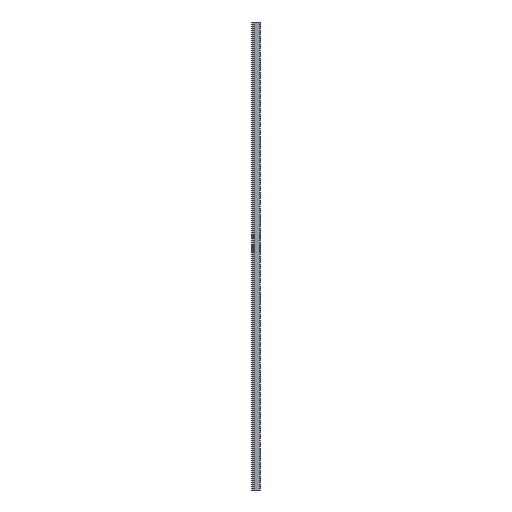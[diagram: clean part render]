
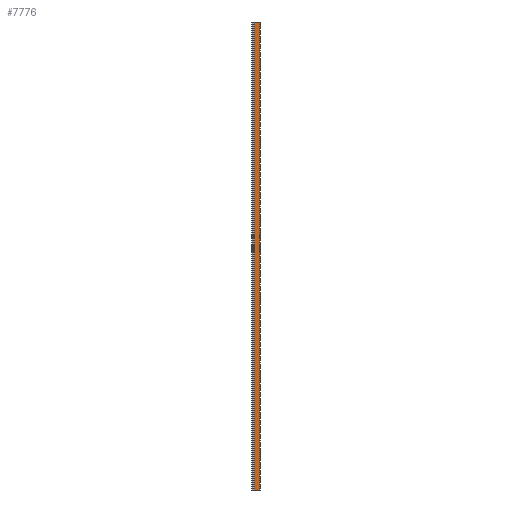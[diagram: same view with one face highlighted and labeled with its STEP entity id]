
A CAD part, left-side view. The second image highlights one B-rep face of the part: STEP entity #7776.
In plain terms, the highlighted planar face has unit normal (-1, 0, 0).
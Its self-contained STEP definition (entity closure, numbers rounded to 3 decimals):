
#402 = LINE ( 'NONE', #15246, #3662 ) ;
#412 = VERTEX_POINT ( 'NONE', #2112 ) ;
#534 = ORIENTED_EDGE ( 'NONE', *, *, #13549, .F. ) ;
#650 = DIRECTION ( 'NONE',  ( 0., -1., 0. ) ) ;
#1151 = ORIENTED_EDGE ( 'NONE', *, *, #1314, .T. ) ;
#1314 = EDGE_CURVE ( 'NONE', #16100, #2200, #6612, .T. ) ;
#1558 = DIRECTION ( 'NONE',  ( 0., 0., -1. ) ) ;
#2112 = CARTESIAN_POINT ( 'NONE',  ( 0., 4.497, -1500. ) ) ;
#2200 = VERTEX_POINT ( 'NONE', #6346 ) ;
#2550 = EDGE_CURVE ( 'NONE', #11726, #412, #402, .T. ) ;
#3055 = DIRECTION ( 'NONE',  ( 0., 1., 0. ) ) ;
#3662 = VECTOR ( 'NONE', #9825, 1000. ) ;
#4276 = LINE ( 'NONE', #8030, #12717 ) ;
#5238 = CARTESIAN_POINT ( 'NONE',  ( 0., 36.58, 1500. ) ) ;
#5558 = CARTESIAN_POINT ( 'NONE',  ( 0., 36.58, 1500. ) ) ;
#5577 = DIRECTION ( 'NONE',  ( 0., 1., 0. ) ) ;
#5913 = LINE ( 'NONE', #9415, #14041 ) ;
#6346 = CARTESIAN_POINT ( 'NONE',  ( 0., 36.58, -1500. ) ) ;
#6612 = LINE ( 'NONE', #5238, #7468 ) ;
#7187 = DIRECTION ( 'NONE',  ( -1., 0., 0. ) ) ;
#7468 = VECTOR ( 'NONE', #1558, 1000. ) ;
#7758 = EDGE_LOOP ( 'NONE', ( #534, #13154, #11465, #1151 ) ) ;
#7776 = ADVANCED_FACE ( 'NONE', ( #15664 ), #11832, .T. ) ;
#8030 = CARTESIAN_POINT ( 'NONE',  ( 0., 4., 1500. ) ) ;
#9076 = EDGE_CURVE ( 'NONE', #11726, #16100, #4276, .T. ) ;
#9415 = CARTESIAN_POINT ( 'NONE',  ( 0., 4., -1500. ) ) ;
#9825 = DIRECTION ( 'NONE',  ( 0., 0., -1. ) ) ;
#11465 = ORIENTED_EDGE ( 'NONE', *, *, #9076, .T. ) ;
#11724 = CARTESIAN_POINT ( 'NONE',  ( 0., 4.497, 1500. ) ) ;
#11726 = VERTEX_POINT ( 'NONE', #11724 ) ;
#11832 = PLANE ( 'NONE',  #14114 ) ;
#12717 = VECTOR ( 'NONE', #5577, 1000. ) ;
#13154 = ORIENTED_EDGE ( 'NONE', *, *, #2550, .F. ) ;
#13549 = EDGE_CURVE ( 'NONE', #412, #2200, #5913, .T. ) ;
#14041 = VECTOR ( 'NONE', #3055, 1000. ) ;
#14114 = AXIS2_PLACEMENT_3D ( 'NONE', #15918, #7187, #650 ) ;
#15246 = CARTESIAN_POINT ( 'NONE',  ( 0., 4.497, 1500. ) ) ;
#15664 = FACE_OUTER_BOUND ( 'NONE', #7758, .T. ) ;
#15918 = CARTESIAN_POINT ( 'NONE',  ( 0., 4., 1500. ) ) ;
#16100 = VERTEX_POINT ( 'NONE', #5558 ) ;
